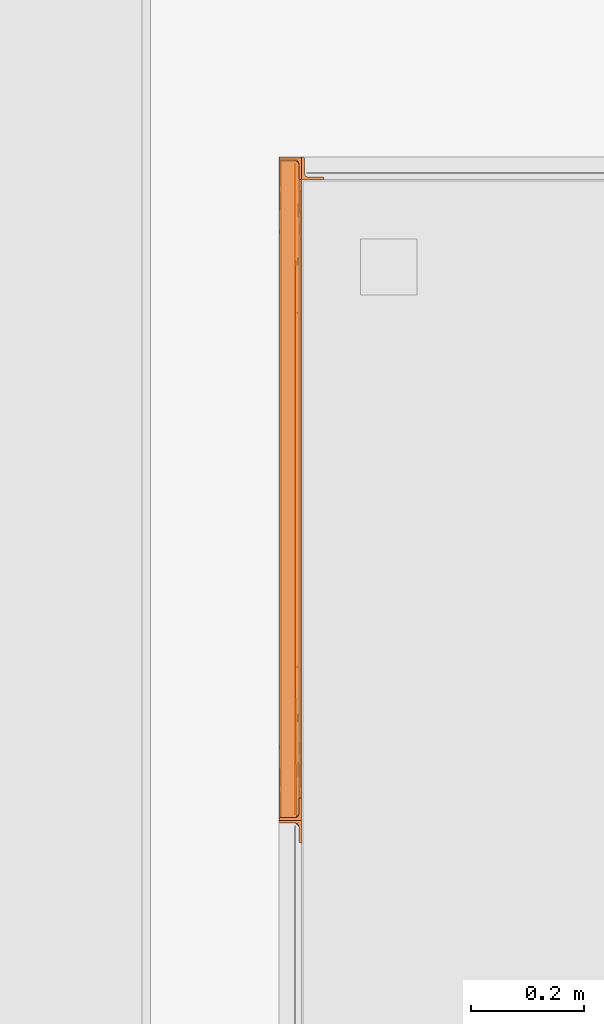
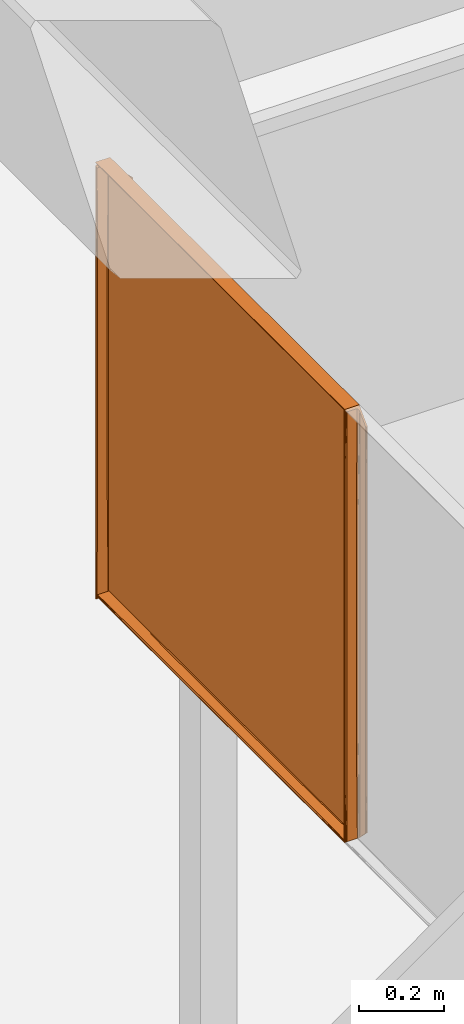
# One storey, part 218 of 230: 7 proxies.
"""IFC4X3_ADD2 building model written with IfcOpenShell, lengths in millimetres."""

from ifc_helpers import new_model, si_unit, direction, frame, origin_with_axes, place, context, subcontext, project, spatial, triangles, polygons, source, transform, mapped, material, type_object, type_shapes, element, save


model = new_model("IFC4X3_ADD2")

# Units and contexts
model_context = context("Model", 3, precision=1e-05, world=origin_with_axes(), true_north=direction((0.0, 1.0)))
body_context = subcontext(model_context, "Body", "Model", "MODEL_VIEW")
ifc_project = project(units=[si_unit("LENGTHUNIT", "METRE", prefix="MILLI"), si_unit("AREAUNIT", "SQUARE_METRE"), si_unit("VOLUMEUNIT", "CUBIC_METRE"), si_unit("PLANEANGLEUNIT", "RADIAN"), si_unit("TIMEUNIT", "SECOND"), si_unit("MASSUNIT", "GRAM")], contexts=[model_context])

# Site, building, storey
site_placement = place(None, origin_with_axes())
site = spatial("IfcSite", under=ifc_project, at=site_placement, Name="Site", CompositionType="ELEMENT")
building_placement = place(site_placement, origin_with_axes())
building = spatial("IfcBuilding", under=site, at=building_placement, Name="IFC Building Story")
storey_placement = place(building_placement, origin_with_axes())
storey = spatial("IfcBuildingStorey", under=building, at=storey_placement, Name="ETAGE 00 (0)", Elevation=0.0)

# Proxies
ifc_material = material(Name="<Unnamed>")
building_element_proxy_type_1 = type_object("IfcBuildingElementProxyType", Name="25", PredefinedType="NOTDEFINED")
shared_shape_1 = source(origin_with_axes(), body_context, "Body", "Tessellation", [
    triangles([(33864.1887817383, 1795.00002822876, 1709.99998397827), (33862.1889038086, 1795.00002822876, 1709.99998397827), (33862.1889038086, 1795.00002822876, 2880.00008010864), (33864.1887817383, 1795.00002822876, 2880.00008010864), (33859.2379211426, 1797.49827690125, 2882.49818344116), (33860.10996093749, 1795.83587837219, 2880.83607559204), (33861.128503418, 1795.18097648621, 2880.18088302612), (33859.1890869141, 1797.99999046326, 2882.99989700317), (33859.1890869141, 1824.00000228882, 2909.0000541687), (33864.1887817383, 1834.99991226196, 2919.99996414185), (33858.8751525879, 1825.82837905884, 2910.82843093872), (33858.0170654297, 1827.53219947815, 2912.53210601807), (33857.6938293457, 1827.88726501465, 2912.88731689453), (33857.0054992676, 1828.64782905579, 2913.6477355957), (33853.189453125, 1829.99992675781, 2914.9999786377), (33827.1887145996, 1829.99992675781, 2914.9999786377), (33824.1888977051, 1834.99991226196, 2919.99996414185), (33855.3916442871, 1829.60838088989, 2914.60843276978), (33825.1097717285, 1830.83592224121, 2915.83597412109), (33824.2377319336, 1832.4981754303, 2917.49837265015), (33824.1888977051, 1833.00003433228, 2918.00008621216), (33826.128314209, 1830.18087501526, 2915.18107223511), (33824.1888977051, 1834.99991226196, 1669.9999546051), (33864.1887817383, 1834.99991226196, 1669.9999546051), (33827.1887145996, 1829.99992675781, 1674.99994010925), (33853.189453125, 1829.99992675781, 1984.99991340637), (33853.189453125, 1829.99992675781, 1674.99994010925), (33853.189453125, 1829.99992675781, 2295.00003204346), (33853.189453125, 1829.99992675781, 2605.00000534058), (33824.1888977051, 1833.00003433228, 2762.25), (33824.1888977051, 1833.00003433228, 1827.74991874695), (33825.8120544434, 1830.31967468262, 1674.68019218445), (33824.9725708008, 1830.98257026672, 1674.01729660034), (33824.1888977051, 1833.00003433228, 1671.99997787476), (33856.2078735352, 1827.02118415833, 2602.94925842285), (33857.6868530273, 1827.8891544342, 1677.11071243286), (33857.4705871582, 1828.20367012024, 1676.79634208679), (33855.7334838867, 1829.46405830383, 1675.5359539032), (33856.1962463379, 1827.01159172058, 1987.0506603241), (33859.1890869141, 1824.00000228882, 1681.00000991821), (33858.7612060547, 1826.13940658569, 1678.86060562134), (33856.2962402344, 1826.9102897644, 2294.99988670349), (33859.1890869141, 1823.99971160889, 2600.87496643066), (33858.5193603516, 1826.6870475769, 1678.31296463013), (33859.1890869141, 1797.99999046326, 1853.99991531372), (33859.1890869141, 1797.99999046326, 1707.00002174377), (33859.1890869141, 1797.99999046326, 2735.99985809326), (33860.8122436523, 1795.31977615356, 1709.68023605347), (33859.9727600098, 1795.98267173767, 1709.01734046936)], [[1, 2, 3], [3, 4, 1], [4, 3, 5], [6, 5, 3], [6, 3, 7], [4, 5, 8], [4, 9, 10], [9, 4, 8], [11, 12, 10], [9, 11, 10], [10, 12, 13], [13, 14, 10], [15, 16, 17], [18, 15, 10], [14, 18, 10], [19, 20, 16], [17, 16, 21], [16, 20, 21], [22, 19, 16], [15, 17, 10], [17, 23, 10], [24, 10, 23], [25, 26, 27], [26, 25, 28], [28, 16, 29], [16, 28, 25], [15, 29, 16], [19, 22, 30], [30, 20, 19], [30, 21, 20], [30, 22, 16], [30, 16, 31], [25, 31, 16], [31, 25, 32], [31, 33, 34], [31, 32, 33], [24, 1, 4], [4, 10, 24], [17, 21, 30], [17, 30, 23], [31, 34, 23], [31, 23, 30], [18, 14, 29], [13, 35, 29], [29, 14, 13], [26, 36, 37], [26, 38, 27], [26, 37, 38], [39, 40, 41], [40, 39, 42], [42, 43, 40], [39, 41, 44], [39, 44, 36], [9, 43, 35], [35, 11, 9], [35, 12, 11], [35, 42, 28], [42, 35, 43], [28, 29, 35], [35, 13, 12], [36, 26, 39], [29, 15, 18], [39, 26, 28], [28, 42, 39], [40, 45, 46], [45, 40, 43], [43, 9, 47], [8, 47, 9], [43, 47, 45], [6, 7, 47], [47, 5, 6], [47, 8, 5], [47, 7, 3], [47, 3, 45], [2, 45, 3], [45, 2, 48], [45, 49, 46], [45, 48, 49], [1, 40, 46], [40, 1, 24], [41, 40, 24], [44, 41, 24], [24, 36, 44], [1, 46, 2], [48, 2, 49], [46, 49, 2], [33, 32, 25], [33, 25, 34], [23, 34, 25], [37, 36, 24], [27, 38, 24], [25, 27, 23], [37, 24, 38], [23, 27, 24]]),
])
type_shapes(building_element_proxy_type_1, [shared_shape_1])
proxy_1_placement = place(storey_placement, origin_with_axes())
element("IfcBuildingElementProxy", 1, at=proxy_1_placement, inside=storey, type_object=building_element_proxy_type_1, material=ifc_material, Name="13:4557", ObjectType="13:4557", context=body_context, shape_type="MappedRepresentation", body=[
    mapped(shared_shape_1, transform((0.0, 0.0, 0.0))),
])
building_element_proxy_type_2 = type_object("IfcBuildingElementProxyType", Name="75", PredefinedType="NOTDEFINED")
shared_shape_2 = source(origin_with_axes(), body_context, "Body", "Tessellation", [
    polygons([(40.0, 0.0, 40.0), (40.0, 2.00000000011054, 40.0), (39.7716385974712, 3.14805029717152, 39.7716385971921), (38.6667106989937, 4.494408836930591, 38.6667106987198), (36.9999999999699, 4.99999999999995, 36.9999999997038), (10.9999999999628, 4.99999999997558, 10.9999999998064), (9.01832562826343, 5.33670001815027, 9.018325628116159), (8.097686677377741, 5.74865946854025, 8.09768667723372), (7.331621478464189, 6.39554379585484, 7.33162147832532), (6.30901110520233, 7.259061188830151, 6.309011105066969), (5.33670001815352, 9.01832562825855, 5.336700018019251), (4.99999999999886, 11.0, 4.9999999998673), (4.99999999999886, 37.0, 4.99999999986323), (4.77163859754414, 38.1480502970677, 4.7716385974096), (3.66671069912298, 39.4944088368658, 3.66671069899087), (2.00000000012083, 40.0, 1.99999999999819), (0.0, 40.0, 0.0), (0.0, 0.0, 0.0), (37.0, 5.00000000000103, 1212.99999999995), (38.6667106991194, 4.49440883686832, 1211.33328930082), (39.7716385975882, 3.1480502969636, 1210.22836140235), (40.0, 1.9999999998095, 1210.0), (11.0000000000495, 5.00000000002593, 1239.00000000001), (40.0, 0.0, 1210.0), (1.9999999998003, 40.0, 1248.0000000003), (0.0, 40.0, 1250.0), (3.66671069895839, 39.4944088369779, 1246.33328930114), (4.77163859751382, 38.1480502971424, 1245.22836140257), (5.000000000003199, 37.0, 1245.00000000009), (0.0, 0.0, 1250.0), (9.0183256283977, 5.33670001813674, 1240.98167437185), (7.259061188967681, 6.30901110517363, 1242.74093881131), (6.30901110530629, 7.2590611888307, 1243.69098889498), (5.15043252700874, 9.66487439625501, 1244.84956747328), (5.00000000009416, 11.0, 1245.00000000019)], [[[12, 13, 14]], [[12, 14, 15]], [[12, 15, 16]], [[12, 16, 17]], [[12, 17, 18]], [[18, 11, 12]], [[18, 10, 11]], [[18, 9, 10]], [[18, 8, 9]], [[18, 7, 8]], [[18, 6, 7]], [[18, 1, 2]], [[18, 2, 3]], [[18, 3, 4]], [[18, 4, 5]], [[18, 5, 6]], [[3, 2, 19]], [[19, 4, 3]], [[19, 5, 4]], [[20, 19, 2]], [[2, 21, 20]], [[2, 22, 21]], [[5, 19, 23, 6]], [[1, 24, 22, 2]], [[17, 16, 25, 26]], [[14, 13, 25]], [[25, 15, 14]], [[25, 16, 15]], [[27, 25, 13]], [[13, 28, 27]], [[13, 29, 28]], [[35, 29, 28]], [[35, 28, 27]], [[35, 27, 25]], [[35, 25, 26]], [[35, 26, 30]], [[30, 34, 35]], [[30, 33, 34]], [[30, 32, 33]], [[30, 31, 32]], [[30, 23, 31]], [[30, 24, 22]], [[30, 22, 21]], [[30, 21, 20]], [[30, 20, 19]], [[30, 19, 23]], [[8, 7, 32]], [[31, 32, 7]], [[7, 6, 23, 31]], [[11, 10, 33]], [[9, 32, 33]], [[33, 10, 9]], [[34, 35, 12]], [[12, 33, 34]], [[33, 12, 11]], [[32, 9, 8]], [[12, 35, 29, 13]], [[18, 30, 24, 1]], [[18, 17, 26, 30]]]),
])
type_shapes(building_element_proxy_type_2, [shared_shape_2])
proxy_2_placement = place(storey_placement, frame((33864.1894781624, 2972.49996364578, 1660.0), z_axis=(0.0, 0.0, 1.0), x_axis=(1.0, 0.0, 0.0)))
element("IfcBuildingElementProxy", 2, at=proxy_2_placement, inside=storey, type_object=building_element_proxy_type_2, material=ifc_material, Name="38", ObjectType="38", context=body_context, shape_type="MappedRepresentation", body=[
    mapped(shared_shape_2, transform((0.0, 0.0, 0.0))),
])
building_element_proxy_type_3 = type_object("IfcBuildingElementProxyType", Name="77", PredefinedType="NOTDEFINED")
shared_shape_3 = source(origin_with_axes(), body_context, "Body", "Tessellation", [
    polygons([(38.0000866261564, 40.0, 40.0), (38.0000866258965, 1137.49999983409, 40.0), (40.00008662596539, 1137.49999983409, 40.0), (40.00008662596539, 40.0, 40.0), (40.00008662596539, 0.0, 0.0), (5.41609768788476e-05, 0.0, 0.0), (2.17825090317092e-05, 2.00000000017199, 2.00000000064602), (0.0504027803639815, 2.51473793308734, 2.51473793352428), (0.9087410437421, 4.16354587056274, 4.16354587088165), (1.92205540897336, 4.81625660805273, 4.8162566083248), (3.00008662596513, 5.00000000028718, 5.000000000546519), (29.0000866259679, 5.000000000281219, 5.00000000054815), (31.1904782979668, 5.38027556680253, 5.38027556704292), (32.8237323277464, 6.34082283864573, 6.34082283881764), (33.5147518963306, 7.09820713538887, 7.09820713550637), (33.8218003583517, 7.43474418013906, 7.434744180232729), (34.6704275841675, 9.10383115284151, 9.10383115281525), (35.0000866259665, 11.0000000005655, 11.0000000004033), (35.0000866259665, 37.000000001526, 36.9999999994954), (35.0504027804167, 37.5147379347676, 37.5147379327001), (35.9087410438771, 39.163545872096, 39.1635458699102), (36.922055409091, 39.8162566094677, 39.8162566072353), (40.00008662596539, 1175.49999983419, 0.0), (35.0000866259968, 174.918749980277, 37.0000000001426), (35.0000866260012, 1002.43124985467, 37.0000000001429), (35.9178445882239, 1138.29991566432, 39.1579833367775), (36.9245909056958, 1137.67857434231, 39.8120268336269), (35.0552401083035, 1139.84471668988, 37.5318769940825), (35.0000866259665, 1140.3499998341, 37.0000000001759), (35.0000866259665, 875.4105319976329, 11.0000000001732), (35.0000866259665, 1165.04999983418, 11.0000000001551), (32.021393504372, 877.3712500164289, 7.98036718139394), (32.1028815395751, 587.931136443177, 8.08328037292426), (29.0000866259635, 587.874999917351, 5.00000000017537), (29.0000866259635, 296.437499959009, 5.0000000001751), (32.0032931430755, 298.491973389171, 7.98251885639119), (30.6595644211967, 1170.54425243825, 5.21657620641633), (32.7188472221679, 1169.53459009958, 6.27937866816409), (29.0000866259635, 879.312499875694, 5.00000000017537), (33.4707904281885, 1168.7565603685, 7.098357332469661), (33.8611292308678, 1168.35267987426, 7.52349469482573), (34.699202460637, 1166.74624004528, 9.214483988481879), (29.0000866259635, 1170.74999983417, 5.000000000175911), (3.00008662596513, 1170.74999983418, 5.00000000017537), (4.59640322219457e-05, 148.449999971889, 1.99998793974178), (0.00011868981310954, 1027.14999987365, 1.99998793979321), (0.91784458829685, 1171.54991566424, 4.15798333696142), (1.92459090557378, 1170.92857434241, 4.81202683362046), (0.0552401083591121, 1173.09471668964, 2.531876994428), (0.000118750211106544, 1173.59999983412, 2.0000000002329), (9.729049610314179e-05, 1175.49999983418, 0.0)], [[[1, 2, 3, 4]], [[19, 20, 21]], [[19, 21, 22]], [[19, 22, 1]], [[19, 1, 4]], [[4, 5, 18]], [[4, 18, 19]], [[5, 17, 18]], [[5, 16, 17]], [[5, 15, 16]], [[5, 14, 15]], [[5, 13, 14]], [[5, 12, 13]], [[5, 7, 8]], [[5, 8, 9]], [[5, 9, 10]], [[5, 10, 11]], [[5, 11, 12]], [[5, 6, 7]], [[5, 4, 3, 23]], [[24, 25, 2, 1]], [[1, 22, 24]], [[20, 19, 24]], [[24, 21, 20]], [[24, 22, 21]], [[26, 27, 25]], [[25, 28, 26]], [[25, 29, 28]], [[25, 27, 2]], [[30, 31, 29]], [[30, 29, 25]], [[24, 19, 18]], [[18, 30, 25]], [[18, 25, 24]], [[32, 33, 34]], [[15, 14, 35]], [[13, 12, 35]], [[35, 14, 13]], [[30, 18, 36, 33]], [[37, 38, 39]], [[40, 32, 39]], [[39, 38, 40]], [[41, 42, 32]], [[31, 30, 32]], [[32, 42, 31]], [[18, 17, 36]], [[17, 16, 36]], [[16, 15, 36]], [[35, 34, 33, 36]], [[32, 40, 41]], [[39, 43, 37]], [[33, 32, 30]], [[35, 36, 15]], [[34, 39, 32]], [[35, 12, 11]], [[11, 34, 35]], [[11, 39, 34]], [[11, 44, 39]], [[44, 43, 39]], [[45, 46, 44, 11]], [[11, 10, 45]], [[8, 7, 45]], [[45, 9, 8]], [[45, 10, 9]], [[47, 48, 46]], [[46, 49, 47]], [[46, 50, 49]], [[46, 48, 44]], [[45, 7, 6]], [[6, 46, 45]], [[6, 51, 46]], [[51, 50, 46]], [[6, 5, 23, 51]], [[50, 51, 23]], [[23, 43, 44]], [[23, 44, 48]], [[23, 48, 47]], [[23, 47, 49]], [[23, 49, 50]], [[23, 37, 43]], [[23, 38, 37]], [[23, 40, 38]], [[23, 41, 40]], [[23, 42, 41]], [[23, 31, 42]], [[23, 3, 29]], [[23, 29, 31]], [[3, 2, 27]], [[3, 27, 26]], [[3, 26, 28]], [[3, 28, 29]]]),
])
type_shapes(building_element_proxy_type_3, [shared_shape_3])
proxy_3_placement = place(storey_placement, frame((33824.18939153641, 1834.99996381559, 1670.0), z_axis=(0.0, 0.0, 1.0), x_axis=(1.0, 0.0, 0.0)))
element("IfcBuildingElementProxy", 3, at=proxy_3_placement, inside=storey, type_object=building_element_proxy_type_3, material=ifc_material, Name="39", ObjectType="39", context=body_context, shape_type="MappedRepresentation", body=[
    mapped(shared_shape_3, transform((0.0, 0.0, 0.0))),
])
building_element_proxy_type_4 = type_object("IfcBuildingElementProxyType", Name="79", PredefinedType="NOTDEFINED")
shared_shape_4 = source(origin_with_axes(), body_context, "Body", "Tessellation", [
    triangles([(33864.1887817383, 2972.49995727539, 1700.00001296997), (33862.1889038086, 2972.49995727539, 1700.00001296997), (33864.1887817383, 2972.49995727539, 2870.00010910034), (33862.1889038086, 2972.49995727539, 2870.00010910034), (33824.1888977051, 3012.49984130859, 2909.99999313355), (33824.1888977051, 3010.49996337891, 2908.00011520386), (33824.1888977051, 3010.49996337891, 2595.99997329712), (33824.1888977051, 3012.49984130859, 1659.9999835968), (33824.1888977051, 3010.49996337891, 1971.99998016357), (33824.1888977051, 3010.49996337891, 1659.9999835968), (33859.1890869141, 2975.50006484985, 2872.99992599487), (33860.6169067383, 2972.88481750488, 2870.3846786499), (33859.5937133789, 2973.8955116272, 2871.39566345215), (33861.7121887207, 2972.53106002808, 2870.03121185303), (33859.1890869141, 3001.49993133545, 2899.0000831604), (33864.1887817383, 3012.49984130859, 2909.99999313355), (33859.1704833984, 3002.0414680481, 2899.54161987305), (33858.670513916, 3004.13697967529, 2901.63684082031), (33857.5240722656, 3005.82699279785, 2903.3271446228), (33853.189453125, 3007.49985580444, 2905.00000762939), (33827.1887145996, 3007.49985580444, 2905.00000762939), (33855.940447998, 3006.93099517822, 2904.43114700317), (33825.6167175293, 3007.88471603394, 2905.38457717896), (33824.5935241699, 3008.89570083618, 2906.3955619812), (33826.7119995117, 3007.53124923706, 2905.03111038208), (33856.1009033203, 3004.63084487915, 2591.28863296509), (33859.1890869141, 3001.49993133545, 2589.77419052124), (33853.189453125, 3007.49985580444, 2592.67662963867), (33856.2032226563, 3004.50672454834, 2280.45033874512), (33859.1890869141, 3001.49993133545, 1669.47367858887), (33856.0613708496, 3004.64973907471, 1969.58820877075), (33853.189453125, 3007.49985580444, 2280.35339698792), (33853.1685241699, 3007.49985580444, 1968.02987365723), (33855.9009155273, 3006.95221481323, 1663.73463935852), (33853.189453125, 3007.49985580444, 1663.15793037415), (33857.4915161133, 3005.8246673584, 1664.92104949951), (33859.1658325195, 3002.09640655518, 1668.84580993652), (33858.6309814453, 3004.23203201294, 1666.59798202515), (33856.05904541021, 3004.64915771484, 1969.58820877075), (33859.1890869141, 2975.50006484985, 1990.88153114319), (33859.1890869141, 2975.50006484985, 1696.84206619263), (33859.1890869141, 2975.50006484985, 2578.96060638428), (33861.8958984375, 2972.51158447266, 1699.98780441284), (33860.6378356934, 2972.87144622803, 1699.60904846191), (33859.6262695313, 2973.8376663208, 1698.5919593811), (33827.1887145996, 3007.49985580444, 1973.61848602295), (33826.8957092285, 3007.51148300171, 1663.14557647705), (33825.6376464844, 3007.87134475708, 1662.76696586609), (33827.1887145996, 3007.49985580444, 1663.15793037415), (33824.6260803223, 3008.83756484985, 1661.74987678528), (33864.1887817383, 3012.49984130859, 1659.9999835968), (33864.1887817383, 3010.49996337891, 1659.9999835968)], [[1, 2, 3], [4, 3, 2], [5, 6, 7], [5, 7, 8], [9, 10, 8], [9, 8, 7], [11, 3, 4], [12, 13, 4], [12, 4, 14], [11, 4, 13], [3, 15, 16], [15, 3, 11], [17, 18, 16], [15, 17, 16], [16, 18, 19], [20, 21, 5], [22, 20, 16], [19, 22, 16], [23, 24, 21], [5, 21, 6], [21, 24, 6], [25, 23, 21], [20, 5, 16], [18, 17, 26], [15, 27, 26], [26, 17, 15], [22, 19, 28], [19, 26, 28], [29, 27, 30], [30, 31, 29], [26, 29, 32], [33, 34, 35], [33, 36, 34], [31, 30, 37], [31, 38, 36], [31, 37, 38], [36, 33, 31], [32, 28, 26], [29, 26, 27], [28, 20, 22], [39, 33, 32], [32, 29, 39], [26, 19, 18], [30, 40, 41], [40, 30, 27], [27, 15, 11], [11, 42, 27], [27, 42, 40], [13, 12, 42], [42, 11, 13], [42, 14, 4], [42, 4, 2], [2, 40, 42], [42, 12, 14], [40, 43, 44], [40, 2, 43], [40, 45, 41], [40, 44, 45], [24, 23, 7], [7, 6, 24], [7, 25, 21], [7, 21, 46], [46, 9, 7], [7, 23, 25], [46, 47, 48], [46, 49, 47], [48, 9, 46], [9, 50, 10], [9, 48, 50], [16, 51, 3], [1, 3, 51], [1, 51, 52], [5, 8, 51], [51, 16, 5], [49, 46, 33], [33, 35, 49], [46, 32, 33], [46, 28, 32], [28, 46, 21], [20, 28, 21], [10, 52, 8], [51, 8, 52], [1, 30, 41], [30, 1, 52], [37, 30, 52], [52, 38, 37], [1, 41, 2], [2, 44, 43], [44, 2, 45], [41, 45, 2], [47, 49, 48], [49, 50, 48], [50, 49, 10], [49, 35, 10], [38, 52, 36], [34, 36, 52], [35, 34, 52], [10, 35, 52]]),
])
type_shapes(building_element_proxy_type_4, [shared_shape_4])
proxy_4_placement = place(storey_placement, origin_with_axes())
element("IfcBuildingElementProxy", 4, at=proxy_4_placement, inside=storey, type_object=building_element_proxy_type_4, material=ifc_material, Name="40", ObjectType="40", context=body_context, shape_type="MappedRepresentation", body=[
    mapped(shared_shape_4, transform((0.0, 0.0, 0.0))),
])
building_element_proxy_type_5 = type_object("IfcBuildingElementProxyType", Name="81", PredefinedType="NOTDEFINED")
shared_shape_5 = source(origin_with_axes(), body_context, "Body", "Tessellation", [
    triangles([(33864.1887817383, 1874.99994163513, 2880.00008010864), (33859.1890869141, 1845.99996757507, 2909.0000541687), (33859.1890869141, 1871.99997940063, 2882.99989700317), (33864.1887817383, 1834.99991226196, 2919.99996414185), (33858.8751525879, 1844.17159080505, 2910.82843093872), (33858.0170654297, 1842.46762504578, 2912.53210601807), (33857.6938293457, 1842.11255950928, 2912.88731689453), (33862.1889038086, 1874.99994163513, 2880.00008010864), (33859.2379211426, 1872.50169296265, 2882.49818344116), (33860.10996093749, 1874.16394615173, 2880.83607559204), (33861.128503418, 1874.81899337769, 2880.18088302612), (33824.2377319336, 1837.50164909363, 2917.49837265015), (33825.1097717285, 1839.16404762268, 2915.83597412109), (33827.1887145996, 1839.99989776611, 2914.9999786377), (33824.1888977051, 1836.99993553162, 2918.00008621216), (33824.1888977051, 1834.99991226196, 2919.99996414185), (33826.128314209, 1839.81894950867, 2915.18107223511), (33857.0054992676, 1841.35214080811, 2913.6477355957), (33853.189453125, 1839.99989776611, 2914.9999786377), (33855.3916442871, 1840.39144363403, 2914.60843276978), (33864.1887817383, 1874.99994163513, 1709.99998397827), (33862.1889038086, 1874.99994163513, 1709.99998397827), (33824.1888977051, 1834.99991226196, 1669.9999546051), (33864.1887817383, 1834.99991226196, 1669.9999546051), (33853.189453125, 1839.99989776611, 2605.00000534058), (33853.189453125, 1839.99989776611, 2295.00003204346), (33827.1887145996, 1839.99989776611, 1674.99994010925), (33853.189453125, 1839.99989776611, 1984.99991340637), (33853.189453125, 1839.99989776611, 1674.99994010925), (33824.9725708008, 1839.0172542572, 1674.01729660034), (33825.8120544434, 1839.68014984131, 1674.68019218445), (33824.1888977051, 1836.99993553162, 1827.74991874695), (33824.1888977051, 1836.99993553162, 1671.99997787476), (33824.1888977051, 1836.99993553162, 2762.25), (33855.7334838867, 1840.53591156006, 1675.5359539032), (33857.4705871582, 1841.79629974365, 1676.79634208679), (33857.6868530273, 1842.11067008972, 1677.11071243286), (33856.2078735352, 1842.9786403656, 1987.05080566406), (33856.1962463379, 1842.98837814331, 2602.94925842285), (33856.2962402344, 1843.08968009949, 2295.00003204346), (33859.1890869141, 1846.00011291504, 1989.12495231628), (33859.1890869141, 1845.99996757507, 1681.00000991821), (33858.7612060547, 1843.8605632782, 1678.86060562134), (33858.5193603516, 1843.31292228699, 1678.31296463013), (33859.1890869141, 1871.99997940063, 2735.99985809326), (33859.1890869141, 1871.99997940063, 1853.99991531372), (33859.1890869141, 1871.99997940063, 1707.00002174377), (33859.9727600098, 1874.01729812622, 1709.01734046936), (33860.8122436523, 1874.68019371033, 1709.68023605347)], [[1, 2, 3], [2, 1, 4], [5, 2, 4], [6, 5, 4], [4, 7, 6], [8, 1, 9], [8, 10, 11], [10, 8, 9], [1, 3, 9], [12, 13, 14], [12, 14, 15], [16, 15, 14], [17, 14, 13], [18, 7, 4], [19, 20, 4], [14, 19, 16], [18, 4, 20], [16, 19, 4], [1, 8, 21], [22, 21, 8], [23, 16, 4], [4, 24, 23], [19, 14, 25], [25, 14, 26], [26, 27, 28], [27, 26, 14], [29, 28, 27], [30, 31, 32], [32, 33, 30], [32, 27, 14], [14, 34, 32], [32, 31, 27], [34, 14, 17], [34, 12, 15], [34, 13, 12], [34, 17, 13], [4, 1, 24], [21, 24, 1], [23, 33, 32], [23, 32, 16], [34, 15, 16], [34, 16, 32], [35, 36, 28], [37, 38, 28], [28, 36, 37], [25, 7, 18], [25, 20, 19], [25, 18, 20], [39, 2, 5], [2, 39, 40], [40, 41, 2], [39, 5, 6], [39, 6, 7], [42, 41, 38], [38, 43, 42], [38, 44, 43], [38, 40, 26], [40, 38, 41], [26, 28, 38], [38, 37, 44], [7, 25, 39], [28, 29, 35], [39, 25, 26], [26, 40, 39], [2, 45, 3], [45, 2, 41], [41, 42, 46], [47, 46, 42], [41, 46, 45], [48, 49, 46], [46, 47, 48], [46, 22, 8], [8, 45, 46], [46, 49, 22], [45, 8, 11], [45, 9, 3], [45, 10, 9], [45, 11, 10], [47, 21, 22], [49, 48, 22], [47, 22, 48], [21, 42, 24], [42, 21, 47], [43, 44, 24], [42, 43, 24], [24, 44, 37], [37, 36, 24], [29, 27, 23], [35, 29, 24], [36, 35, 24], [31, 30, 27], [23, 27, 33], [27, 30, 33], [29, 23, 24]]),
])
type_shapes(building_element_proxy_type_5, [shared_shape_5])
proxy_5_placement = place(storey_placement, origin_with_axes())
element("IfcBuildingElementProxy", 5, at=proxy_5_placement, inside=storey, type_object=building_element_proxy_type_5, material=ifc_material, Name="41", ObjectType="41", context=body_context, shape_type="MappedRepresentation", body=[
    mapped(shared_shape_5, transform((0.0, 0.0, 0.0))),
])
building_element_proxy_type_6 = type_object("IfcBuildingElementProxyType", Name="83", PredefinedType="NOTDEFINED")
shared_shape_6 = source(origin_with_axes(), body_context, "Body", "Tessellation", [
    triangles([(33864.1887817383, 2972.49995727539, 2880.00008010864), (33862.1889038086, 2972.49995727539, 2880.00008010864), (33862.1889038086, 1874.99994163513, 2880.00008010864), (33864.1887817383, 1874.99994163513, 2880.00008010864), (33859.1890869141, 1871.99997940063, 2882.99989700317), (33860.7634094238, 1874.66449699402, 2880.33552474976), (33859.77974853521, 1873.79507331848, 2881.20494842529), (33861.5935913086, 1874.9482006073, 2880.05182113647), (33859.1890869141, 1845.99996757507, 2909.0000541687), (33864.1887817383, 1834.99991226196, 2919.99996414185), (33859.0890930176, 1844.97052459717, 2910.02935180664), (33858.3682067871, 1842.99986000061, 2912.00016174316), (33857.6915039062, 1842.09962425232, 2912.90039749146), (33857.3729187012, 1841.67290611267, 2913.3271156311), (33853.189453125, 1839.99989776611, 2914.9999786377), (33827.1887145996, 1839.99989776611, 2914.9999786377), (33824.2005249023, 1834.99991226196, 2919.99996414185), (33855.345135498, 1840.36746253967, 2914.6325592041), (33825.7701965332, 1839.66358108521, 2915.3362953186), (33824.7795593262, 1838.7825302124, 2916.21734619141), (33824.193548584, 1836.99993553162, 2918.00008621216), (33826.5934020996, 1839.94743003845, 2915.05259170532), (33864.1887817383, 3012.49984130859, 2919.99996414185), (33859.1890869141, 2009.44522361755, 2882.99989700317), (33859.1890869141, 2838.05467529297, 2882.99989700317), (33860.7773620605, 2972.83772735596, 2880.33755950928), (33859.7750976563, 2973.73389358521, 2881.23401641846), (33859.1890869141, 2975.50006484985, 2882.99989700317), (33859.1890869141, 3001.49993133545, 2909.0000541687), (33859.1890869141, 2712.62483139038, 2909.0000541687), (33856.2962402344, 2423.74987678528, 2911.9132484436), (33856.2078735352, 2714.7002861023, 2912.02312545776), (33856.1939208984, 2132.79743270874, 2912.01585845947), (33853.189453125, 2423.75002212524, 2914.9999786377), (33853.189453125, 2716.74987030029, 2914.9999786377), (33859.091418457, 3002.50335845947, 2910.00348129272), (33858.3635559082, 3004.48172607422, 2911.98155822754), (33857.6822021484, 3005.38603134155, 2912.88586349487), (33857.3496643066, 3005.82815551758, 2913.3279876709), (33855.3125793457, 3007.13795928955, 2914.6380821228), (33853.189453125, 3007.49985580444, 2914.9999786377), (33853.189453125, 2130.75002861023, 2914.9999786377), (33827.1887145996, 3007.49985580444, 2914.9999786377), (33824.193548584, 1983.19522705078, 2918.00008621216), (33824.1888977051, 2423.74987678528, 2917.99921417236), (33824.1865722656, 2864.30452651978, 2918.00124893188), (33825.7771728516, 3007.83762588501, 2915.33774871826), (33824.7749084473, 3008.73379211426, 2916.23391494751), (33824.1842468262, 3010.49996337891, 2918.00008621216), (33824.17959594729, 3012.49984130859, 2919.99996414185)], [[1, 2, 3], [3, 4, 1], [5, 4, 3], [6, 7, 3], [6, 3, 8], [5, 3, 7], [4, 9, 10], [9, 4, 5], [11, 12, 10], [9, 11, 10], [10, 12, 13], [13, 14, 10], [15, 16, 17], [15, 17, 10], [14, 18, 10], [19, 20, 16], [17, 16, 21], [16, 20, 21], [22, 19, 16], [15, 10, 18], [23, 1, 10], [4, 10, 1], [7, 6, 24], [24, 5, 7], [24, 8, 3], [24, 3, 25], [2, 25, 3], [24, 6, 8], [25, 2, 26], [25, 27, 28], [25, 26, 27], [29, 25, 28], [25, 29, 30], [30, 9, 24], [5, 24, 9], [30, 24, 25], [31, 30, 32], [12, 11, 33], [33, 9, 31], [30, 31, 9], [33, 11, 9], [34, 32, 35], [32, 29, 36], [29, 32, 30], [32, 37, 38], [32, 36, 37], [35, 38, 39], [35, 40, 41], [35, 39, 40], [18, 14, 42], [13, 33, 42], [42, 14, 13], [42, 33, 34], [31, 34, 33], [42, 15, 18], [38, 35, 32], [34, 31, 32], [33, 13, 12], [43, 35, 41], [35, 43, 34], [34, 16, 42], [16, 34, 43], [15, 42, 16], [20, 19, 44], [44, 22, 16], [44, 16, 45], [45, 43, 46], [43, 45, 16], [44, 19, 22], [46, 43, 47], [46, 48, 49], [46, 47, 48], [44, 21, 20], [45, 46, 50], [49, 50, 46], [50, 17, 45], [17, 21, 44], [44, 45, 17], [23, 10, 17], [17, 50, 23], [1, 29, 28], [29, 1, 23], [36, 29, 23], [37, 36, 23], [23, 38, 37], [1, 28, 2], [26, 2, 27], [28, 27, 2], [48, 47, 43], [48, 43, 49], [50, 49, 43], [39, 38, 23], [40, 23, 41], [43, 41, 50], [39, 23, 40], [41, 23, 50]]),
])
type_shapes(building_element_proxy_type_6, [shared_shape_6])
proxy_6_placement = place(storey_placement, origin_with_axes())
element("IfcBuildingElementProxy", 6, at=proxy_6_placement, inside=storey, type_object=building_element_proxy_type_6, material=ifc_material, Name="42", ObjectType="42", context=body_context, shape_type="MappedRepresentation", body=[
    mapped(shared_shape_6, transform((0.0, 0.0, 0.0))),
])
building_element_proxy_type_7 = type_object("IfcBuildingElementProxyType", Name="85", PredefinedType="NOTDEFINED")
shared_shape_7 = source(origin_with_axes(), body_context, "Body", "Tessellation", [
    polygons([(0.0, 1155.4999998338, 1228.00000000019), (0.0, 0.0, 1228.00000000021), (0.0, 0.0, 0.0), (0.0, 1154.04999983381, 0.0)], [[[1, 2, 3, 4]]]),
])
type_shapes(building_element_proxy_type_7, [shared_shape_7])
proxy_7_placement = place(storey_placement, frame((33853.1894781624, 1845.99996381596, 1680.99999999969), z_axis=(0.0, 0.0, 1.0), x_axis=(1.0, 0.0, 0.0)))
element("IfcBuildingElementProxy", 7, at=proxy_7_placement, inside=storey, type_object=building_element_proxy_type_7, material=ifc_material, Name="43", ObjectType="43", context=body_context, shape_type="MappedRepresentation", body=[
    mapped(shared_shape_7, transform((0.0, 0.0, 0.0))),
])

save(model, "model.ifc")
